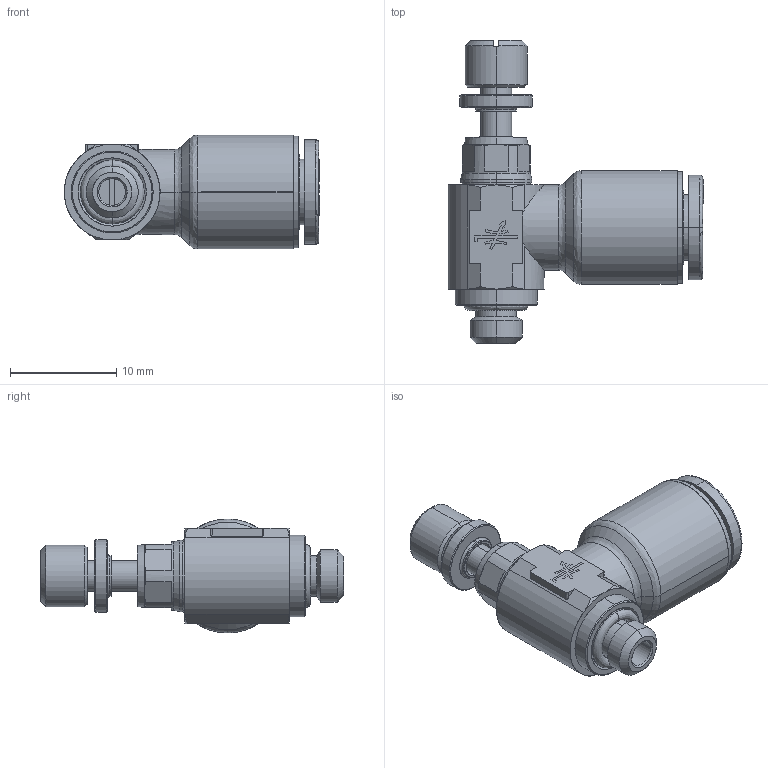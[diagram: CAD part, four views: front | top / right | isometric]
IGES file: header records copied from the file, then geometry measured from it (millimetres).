
Start section: SolidWorks IGES file using analytic representation for surfaces
Global section: file name: C:\Users\cad06\Desktop\Nuova cartella\5695500002.IGS; native system: SolidWorks 2016; preprocessor: SolidWorks 2016; author: cad06; date: 160523.133010; units: millimetre
Bounding box: 24 x 28.47 x 10.7 mm (x, y, z)
Surface area: 1852.7 mm2 (no closed solid volume)
Topology: 0 solids, 0 shells, 290 faces, 3036 edges, 3036 vertices
Faces by surface type: bspline 198, revolution 92
